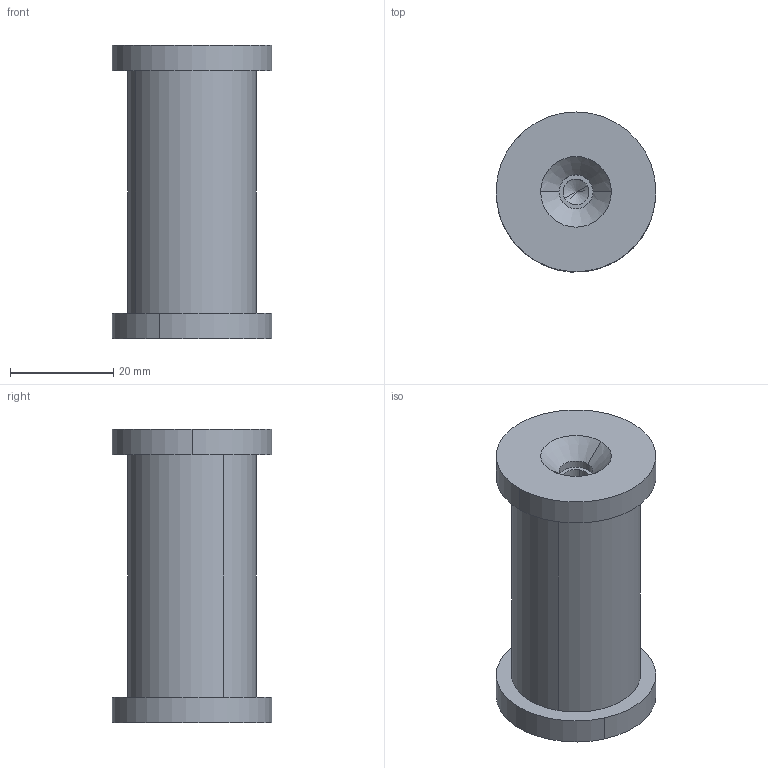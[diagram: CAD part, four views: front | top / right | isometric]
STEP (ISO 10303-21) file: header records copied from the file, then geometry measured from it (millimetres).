
FILE_DESCRIPTION (( 'STEP AP203' ), '1' );
FILE_NAME ('Bolzen Scheibe A M24.STEP', '2018-02-20T07:55:17', ( 'install' ), ( 'Hewlett-Packard Company' ), 'SwSTEP 2.0', 'SolidWorks 2017', '' );
FILE_SCHEMA (( 'CONFIG_CONTROL_DESIGN' ));
Length unit declared in the file: millimetre
Products named in the file (3): Bolzen ScheibeVarA_generisch_M24; Bolzen Scheibe A M24; Scheibe_M24
Assembly tree (3 placements, depth 2):
  Bolzen Scheibe A M24
    Scheibe_M24  x2
    Bolzen ScheibeVarA_generisch_M24
Bounding box: 31 x 31 x 57 mm (x, y, z)
Volume: 29230.4 mm3; surface area: 9226.9 mm2
Topology: 3 solids, 3 shells, 28 faces, 58 edges, 34 vertices
Faces by surface type: cylinder 14, cone 8, plane 6
Entity records: 853 total; most frequent: DIRECTION 112, CARTESIAN_POINT 88, ORIENTED_EDGE 76, AXIS2_PLACEMENT_3D 48, EDGE_CURVE 38, PERSON_AND_ORGANIZATION 27, VERTEX_POINT 24, EDGE_LOOP 24
